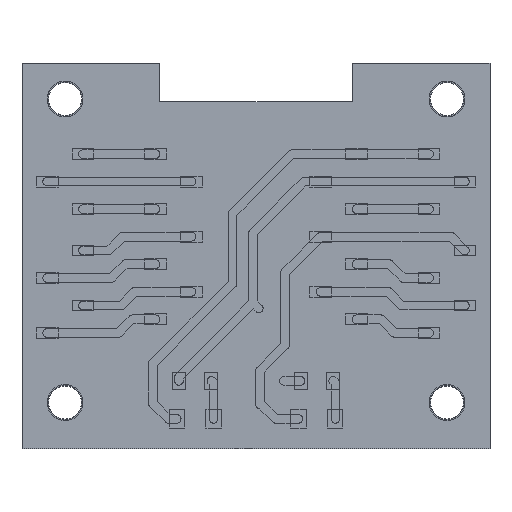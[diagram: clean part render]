
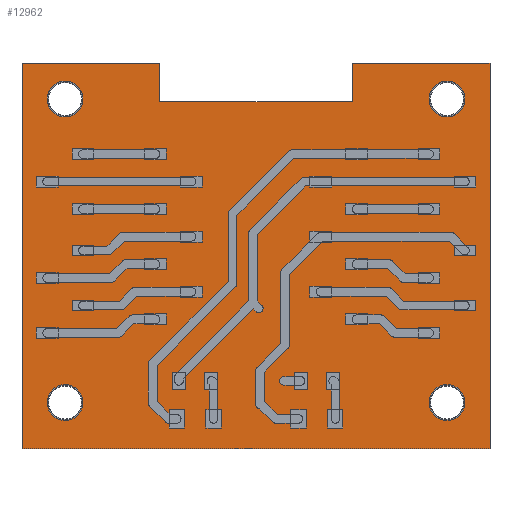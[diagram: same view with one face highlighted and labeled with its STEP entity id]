
A CAD part, top view. The second image highlights one B-rep face of the part: STEP entity #12962.
In plain terms, the highlighted planar face has unit normal (0, 0, 1).
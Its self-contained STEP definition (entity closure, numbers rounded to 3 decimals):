
#12774 = VERTEX_POINT('',#12775);
#12775 = CARTESIAN_POINT('',(129.54,-73.406,1.51));
#12781 = EDGE_CURVE('',#12774,#12782,#12784,.T.);
#12782 = VERTEX_POINT('',#12783);
#12783 = CARTESIAN_POINT('',(147.32,-73.406,1.51));
#12784 = LINE('',#12785,#12786);
#12785 = CARTESIAN_POINT('',(129.54,-73.406,1.51));
#12786 = VECTOR('',#12787,1.);
#12787 = DIRECTION('',(1.,0.,0.));
#12814 = VERTEX_POINT('',#12815);
#12815 = CARTESIAN_POINT('',(129.54,-69.85,1.51));
#12821 = EDGE_CURVE('',#12814,#12774,#12822,.T.);
#12822 = LINE('',#12823,#12824);
#12823 = CARTESIAN_POINT('',(129.54,-69.85,1.51));
#12824 = VECTOR('',#12825,1.);
#12825 = DIRECTION('',(0.,-1.,0.));
#12843 = EDGE_CURVE('',#12782,#12844,#12846,.T.);
#12844 = VERTEX_POINT('',#12845);
#12845 = CARTESIAN_POINT('',(147.32,-69.85,1.51));
#12846 = LINE('',#12847,#12848);
#12847 = CARTESIAN_POINT('',(147.32,-73.406,1.51));
#12848 = VECTOR('',#12849,1.);
#12849 = DIRECTION('',(0.,1.,0.));
#12962 = ADVANCED_FACE('',(#12963,#13006,#13017,#13028,#13039),#13050,
  .T.);
#12963 = FACE_BOUND('',#12964,.T.);
#12964 = EDGE_LOOP('',(#12965,#12966,#12967,#12975,#12983,#12991,#12999,
    #13005));
#12965 = ORIENTED_EDGE('',*,*,#12781,.F.);
#12966 = ORIENTED_EDGE('',*,*,#12821,.F.);
#12967 = ORIENTED_EDGE('',*,*,#12968,.F.);
#12968 = EDGE_CURVE('',#12969,#12814,#12971,.T.);
#12969 = VERTEX_POINT('',#12970);
#12970 = CARTESIAN_POINT('',(116.84,-69.85,1.51));
#12971 = LINE('',#12972,#12973);
#12972 = CARTESIAN_POINT('',(116.84,-69.85,1.51));
#12973 = VECTOR('',#12974,1.);
#12974 = DIRECTION('',(1.,0.,0.));
#12975 = ORIENTED_EDGE('',*,*,#12976,.F.);
#12976 = EDGE_CURVE('',#12977,#12969,#12979,.T.);
#12977 = VERTEX_POINT('',#12978);
#12978 = CARTESIAN_POINT('',(116.84,-105.41,1.51));
#12979 = LINE('',#12980,#12981);
#12980 = CARTESIAN_POINT('',(116.84,-105.41,1.51));
#12981 = VECTOR('',#12982,1.);
#12982 = DIRECTION('',(0.,1.,0.));
#12983 = ORIENTED_EDGE('',*,*,#12984,.F.);
#12984 = EDGE_CURVE('',#12985,#12977,#12987,.T.);
#12985 = VERTEX_POINT('',#12986);
#12986 = CARTESIAN_POINT('',(160.02,-105.41,1.51));
#12987 = LINE('',#12988,#12989);
#12988 = CARTESIAN_POINT('',(160.02,-105.41,1.51));
#12989 = VECTOR('',#12990,1.);
#12990 = DIRECTION('',(-1.,0.,0.));
#12991 = ORIENTED_EDGE('',*,*,#12992,.F.);
#12992 = EDGE_CURVE('',#12993,#12985,#12995,.T.);
#12993 = VERTEX_POINT('',#12994);
#12994 = CARTESIAN_POINT('',(160.02,-69.85,1.51));
#12995 = LINE('',#12996,#12997);
#12996 = CARTESIAN_POINT('',(160.02,-69.85,1.51));
#12997 = VECTOR('',#12998,1.);
#12998 = DIRECTION('',(0.,-1.,0.));
#12999 = ORIENTED_EDGE('',*,*,#13000,.F.);
#13000 = EDGE_CURVE('',#12844,#12993,#13001,.T.);
#13001 = LINE('',#13002,#13003);
#13002 = CARTESIAN_POINT('',(147.32,-69.85,1.51));
#13003 = VECTOR('',#13004,1.);
#13004 = DIRECTION('',(1.,0.,0.));
#13005 = ORIENTED_EDGE('',*,*,#12843,.F.);
#13006 = FACE_BOUND('',#13007,.T.);
#13007 = EDGE_LOOP('',(#13008));
#13008 = ORIENTED_EDGE('',*,*,#13009,.T.);
#13009 = EDGE_CURVE('',#13010,#13010,#13012,.T.);
#13010 = VERTEX_POINT('',#13011);
#13011 = CARTESIAN_POINT('',(120.815,-102.702,1.51));
#13012 = CIRCLE('',#13013,1.55);
#13013 = AXIS2_PLACEMENT_3D('',#13014,#13015,#13016);
#13014 = CARTESIAN_POINT('',(120.815,-101.152,1.51));
#13015 = DIRECTION('',(-0.,0.,-1.));
#13016 = DIRECTION('',(-0.,-1.,0.));
#13017 = FACE_BOUND('',#13018,.T.);
#13018 = EDGE_LOOP('',(#13019));
#13019 = ORIENTED_EDGE('',*,*,#13020,.T.);
#13020 = EDGE_CURVE('',#13021,#13021,#13023,.T.);
#13021 = VERTEX_POINT('',#13022);
#13022 = CARTESIAN_POINT('',(156.05,-102.702,1.51));
#13023 = CIRCLE('',#13024,1.55);
#13024 = AXIS2_PLACEMENT_3D('',#13025,#13026,#13027);
#13025 = CARTESIAN_POINT('',(156.05,-101.152,1.51));
#13026 = DIRECTION('',(-0.,0.,-1.));
#13027 = DIRECTION('',(-0.,-1.,0.));
#13028 = FACE_BOUND('',#13029,.T.);
#13029 = EDGE_LOOP('',(#13030));
#13030 = ORIENTED_EDGE('',*,*,#13031,.T.);
#13031 = EDGE_CURVE('',#13032,#13032,#13034,.T.);
#13032 = VERTEX_POINT('',#13033);
#13033 = CARTESIAN_POINT('',(120.815,-74.702,1.51));
#13034 = CIRCLE('',#13035,1.55);
#13035 = AXIS2_PLACEMENT_3D('',#13036,#13037,#13038);
#13036 = CARTESIAN_POINT('',(120.815,-73.152,1.51));
#13037 = DIRECTION('',(-0.,0.,-1.));
#13038 = DIRECTION('',(-0.,-1.,0.));
#13039 = FACE_BOUND('',#13040,.T.);
#13040 = EDGE_LOOP('',(#13041));
#13041 = ORIENTED_EDGE('',*,*,#13042,.T.);
#13042 = EDGE_CURVE('',#13043,#13043,#13045,.T.);
#13043 = VERTEX_POINT('',#13044);
#13044 = CARTESIAN_POINT('',(156.05,-74.702,1.51));
#13045 = CIRCLE('',#13046,1.55);
#13046 = AXIS2_PLACEMENT_3D('',#13047,#13048,#13049);
#13047 = CARTESIAN_POINT('',(156.05,-73.152,1.51));
#13048 = DIRECTION('',(-0.,0.,-1.));
#13049 = DIRECTION('',(-0.,-1.,0.));
#13050 = PLANE('',#13051);
#13051 = AXIS2_PLACEMENT_3D('',#13052,#13053,#13054);
#13052 = CARTESIAN_POINT('',(0.,0.,1.51));
#13053 = DIRECTION('',(0.,0.,1.));
#13054 = DIRECTION('',(1.,0.,-0.));
